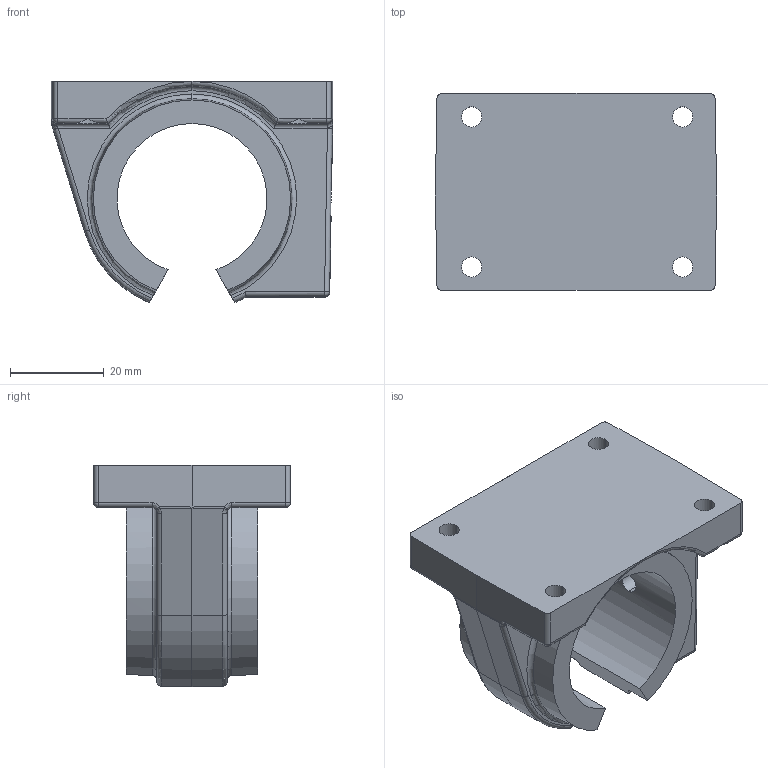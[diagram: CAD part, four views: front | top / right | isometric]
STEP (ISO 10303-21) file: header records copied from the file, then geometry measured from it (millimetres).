
FILE_DESCRIPTION (( 'STEP AP203' ), '1' );
FILE_NAME ('KGGO67-20.step', '2020-03-10T16:09:50', ( '' ), ( '' ), 'SwSTEP 2.0', 'SolidWorks 2019', '' );
FILE_SCHEMA (( 'CONFIG_CONTROL_DESIGN' ));
Length unit declared in the file: millimetre
Products named in the file (2): KGGO67-20
Bounding box: 59.98 x 42 x 47.19 mm (x, y, z)
Volume: 39316.5 mm3; surface area: 14436.9 mm2
Topology: 1 solids, 1 shells, 132 faces, 320 edges, 188 vertices
Faces by surface type: cylinder 59, plane 34, torus 16, bspline 8, sphere 8, cone 7
Entity records: 4325 total; most frequent: CARTESIAN_POINT 1183, ORIENTED_EDGE 636, DIRECTION 631, EDGE_CURVE 318, AXIS2_PLACEMENT_3D 256, VERTEX_POINT 188, EDGE_LOOP 142, FACE_OUTER_BOUND 132
